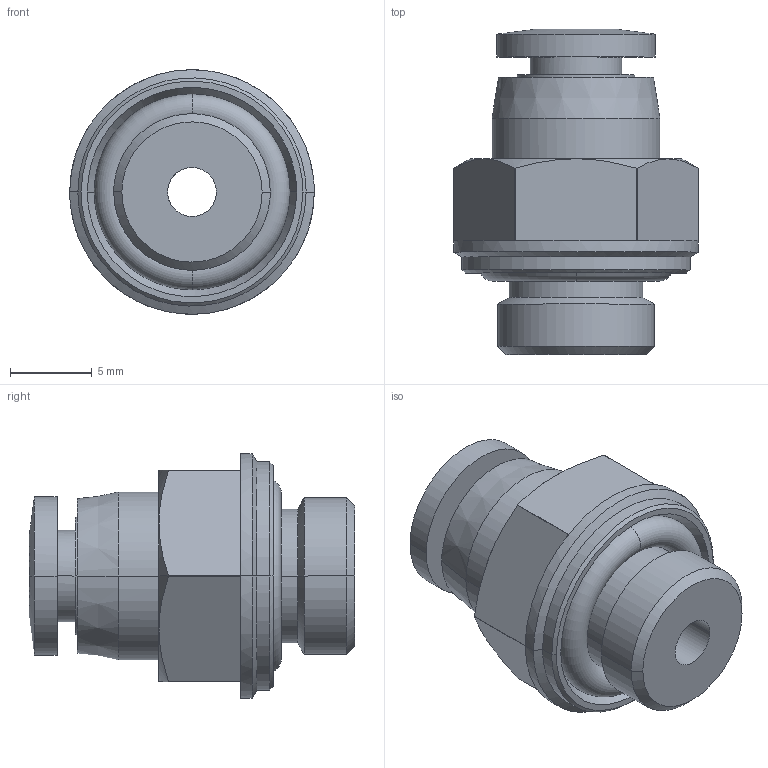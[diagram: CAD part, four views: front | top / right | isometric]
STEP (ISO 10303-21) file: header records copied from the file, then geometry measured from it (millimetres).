
FILE_DESCRIPTION (( 'STEP AP203' ), '1' );
FILE_NAME ('FH04-01.STEP', '2020-05-06T14:33:19', ( '' ), ( '' ), 'SwSTEP 2.0', 'SolidWorks 2019', '' );
FILE_SCHEMA (( 'CONFIG_CONTROL_DESIGN' ));
Length unit declared in the file: millimetre
Products named in the file (1): FH04-01
Bounding box: 15 x 19.95 x 15 mm (x, y, z)
Surface area: 1612.7 mm2 (no closed solid volume)
Topology: 0 solids, 4 shells, 71 faces, 164 edges, 103 vertices
Faces by surface type: cylinder 22, plane 22, cone 21, torus 6
Entity records: 3204 total; most frequent: CARTESIAN_POINT 1765, ORIENTED_EDGE 312, DIRECTION 193, EDGE_CURVE 164, B_SPLINE_CURVE_WITH_KNOTS 121, VERTEX_POINT 103, EDGE_LOOP 81, AXIS2_PLACEMENT_3D 78
